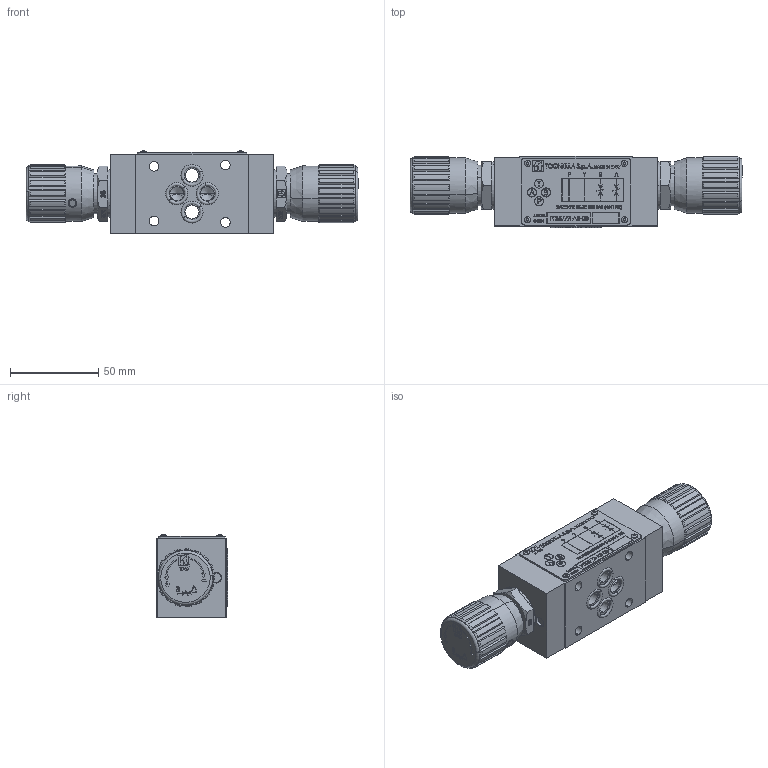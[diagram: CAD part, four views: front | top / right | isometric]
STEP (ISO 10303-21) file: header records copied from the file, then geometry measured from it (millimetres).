
FILE_DESCRIPTION (( 'STEP AP214' ), '1' );
FILE_NAME ('FT357-2-AB-03.STEP', '2014-06-16T14:03:36', ( '' ), ( '' ), 'SwSTEP 2.0', 'SolidWorks 2014', '' );
FILE_SCHEMA (( 'AUTOMOTIVE_DESIGN' ));
Length unit declared in the file: millimetre
Products named in the file (15): DiscoFascetta267_2-38; CappuccioFT267_2-38_Tipo38; Volantino267_2-38_Tipo38; CorpoValvolaFT267_2-38; 357-6-AB001000; FT357-2-AB-03; HK060CK55-111; RivettoTarga; OR3068; OR2037; 357-2-AB015000; FT267_2-38; OR2050; AnelloFT267_2-38; GranoFT267_2-38_Tipo14
Assembly tree (24 placements, depth 3):
  FT357-2-AB-03
    357-6-AB001000
    FT267_2-38  x2
      CorpoValvolaFT267_2-38
      Volantino267_2-38_Tipo38
      CappuccioFT267_2-38_Tipo38
      DiscoFascetta267_2-38
      GranoFT267_2-38_Tipo14
      AnelloFT267_2-38
      OR2050
    357-2-AB015000
    OR2037  x4
    OR3068  x2
    RivettoTarga  x4
    HK060CK55-111  x2
Bounding box: 188.6 x 40.38 x 46.96 mm (x, y, z)
Volume: 204196.1 mm3; surface area: 74136 mm2
Topology: 30 solids, 30 shells, 2618 faces, 6766 edges, 4424 vertices
Faces by surface type: plane 1531, bspline 495, cylinder 330, cone 202, torus 60
Entity records: 101224 total; most frequent: CARTESIAN_POINT 38715, ORIENTED_EDGE 10320, DIRECTION 7883, EDGE_CURVE 5160, LINE 3573, VECTOR 3573, VERTEX_POINT 3399, EDGE_LOOP 2235
